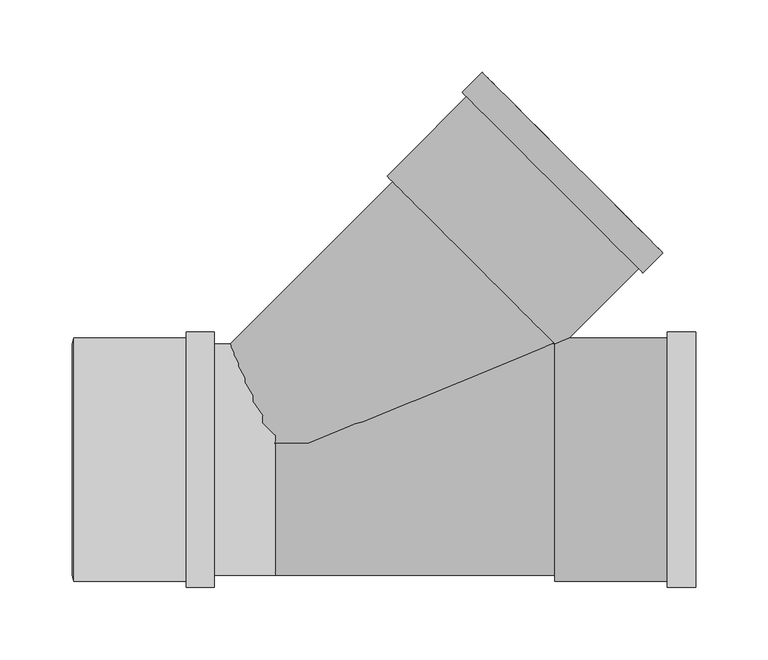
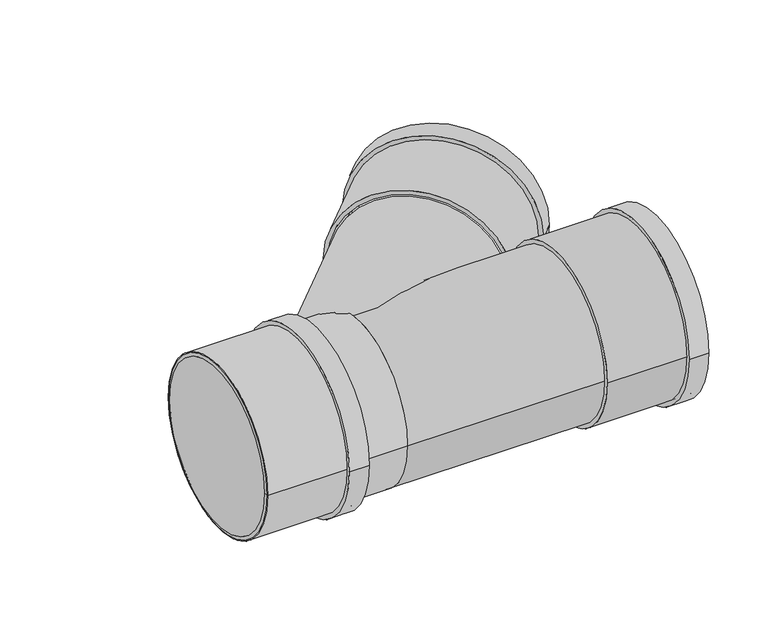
"""IFC4 building model written with IfcOpenShell, lengths in millimetres: pipe fitting geometry, Superdrain SKEA Branch : Superdrain SKEA Branch."""

from ifc_helpers import new_model, si_unit, point, frame, origin, origin_2d, place, context, project, spatial, polyline, circle_curve, ellipse_curve, trimmed, segment, composite_curve, outline, extrude, source, transform, mapped, element, save
from ifc_brep_helpers import plane_surface, cylinder_surface, revolved_surface, advanced_brep


def pipe_fitting_d46e7f13(model_context):
    return source(origin(), model_context, "Body", "SolidModel", [
        extrude(outline(composite_curve([segment(trimmed(circle_curve(origin_2d(), 84.0), [point((84.0, 0.0))], [point((-84.0, 0.0))], False, "CARTESIAN"), True, "CONTINUOUS"), segment(trimmed(circle_curve(origin_2d(), 84.0), [point((-84.0, 0.0))], [point((84.0, 0.0))], False, "CARTESIAN"), True, "CONTINUOUS")], self_intersect=False), holes=[composite_curve([segment(trimmed(circle_curve(origin_2d(), 80.0), [point((80.0, 0.0))], [point((-80.0, 0.0))], True, "CARTESIAN"), True, "CONTINUOUS"), segment(trimmed(circle_curve(origin_2d(), 80.0), [point((-80.0, 0.0))], [point((80.0, 0.0))], True, "CARTESIAN"), True, "CONTINUOUS")], self_intersect=False)]), frame((-139.0, 0.0, 0.0), z_axis=(1.0, 0.0, 0.0), x_axis=(0.0, 1.0, 0.0)), (0.0, 0.0, 1.0), 97.0),
        extrude(outline(composite_curve([segment(trimmed(circle_curve(origin_2d(), 88.2), [point((88.2, 0.0))], [point((-88.2, 0.0))], False, "CARTESIAN"), True, "CONTINUOUS"), segment(trimmed(circle_curve(origin_2d(), 88.2), [point((-88.2, 0.0))], [point((88.2, 0.0))], False, "CARTESIAN"), True, "CONTINUOUS")], self_intersect=False), holes=[composite_curve([segment(trimmed(circle_curve(origin_2d(), 80.0), [point((80.0, 0.0))], [point((-80.0, 0.0))], True, "CARTESIAN"), True, "CONTINUOUS"), segment(trimmed(circle_curve(origin_2d(), 80.0), [point((-80.0, 0.0))], [point((80.0, 0.0))], True, "CARTESIAN"), True, "CONTINUOUS")], self_intersect=False)]), frame((-61.4, 0.0, 0.0), z_axis=(1.0, 0.0, 0.0), x_axis=(0.0, 1.0, 0.0)), (0.0, 0.0, 1.0), 19.4),
        advanced_brep(
        [(-140.0, 80.0, 0.0), (-140.0, -80.0, 0.0), (-139.0, 84.0, 0.0), (-139.0, -84.0, 0.0)],
        [
            (0, 1, circle_curve(frame((-140.0, 0.0, 0.0), z_axis=(-1.0, 0.0, 0.0), x_axis=(0.0, 1.0000000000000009, 0.0)), 80.0)),
            (1, 0, circle_curve(frame((-140.0, 0.0, 0.0), z_axis=(-1.0, 0.0, 0.0), x_axis=(0.0, -1.0000000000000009, 0.0)), 80.0)),
            (2, 3, circle_curve(frame((-139.0, 0.0, 0.0), z_axis=(1.0, 0.0, 0.0), x_axis=(0.0, -1.0000000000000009, 0.0)), 84.0)),
            (3, 2, circle_curve(frame((-139.0, 0.0, 0.0), z_axis=(1.0, 0.0, 0.0), x_axis=(0.0, 1.0000000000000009, 0.0)), 84.0)),
            (3, 1),
            (0, 2),
        ],
        [
            plane_surface(frame((-140.0, 0.0, 0.0), z_axis=(-1.0, 0.0, 0.0), x_axis=(0.0, 0.0, -1.0))),
            plane_surface(frame((-139.0, 0.0, 0.0), z_axis=(1.0, 0.0, 0.0), x_axis=(0.0, 0.0, -1.0))),
            revolved_surface(polyline([(-140.0, 79.99999999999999, 0.0), (-139.0, 84.0, 0.0)]), (-160.0, 0.0, 0.0), (1.0000000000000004, 0.0, 0.0)),
            revolved_surface(polyline([(-140.0, -79.99999999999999, 0.0), (-139.0, -84.0, 0.0)]), (-160.0, 0.0, 0.0), (1.0000000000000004, 0.0, 0.0)),
        ],
        [
            (0, [[1, 2]]),
            (1, [[3, 4]]),
            (2, [[-4, 5, -1, 6]]),
            (3, [[-3, -6, -2, -5]]),
        ],
    ),
        advanced_brep(
        [(191.9087804, 81.0344371, 0.0), (81.0344371, 191.9087804, 0.0), (-32.4743433, 78.4, 0.0), (0.0, 0.0, 78.4), (189.2743433, 78.4, 0.0), (0.0, 0.0, -78.4)],
        [
            (0, 1, circle_curve(frame((136.4716088, 136.4716088, 0.0), z_axis=(0.7071067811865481, 0.707106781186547, 0.0), x_axis=(-0.707106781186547, 0.7071067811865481, 0.0)), 78.4)),
            (1, 0, circle_curve(frame((136.4716088, 136.4716088, 0.0), z_axis=(0.7071067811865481, 0.707106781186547, 0.0), x_axis=(-0.707106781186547, 0.7071067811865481, 0.0)), 78.4)),
            (1, 2),
            (2, 3, ellipse_curve(frame((0.0, 0.0, 0.0), z_axis=(0.923879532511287, 0.38268343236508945, 0.0), x_axis=(0.38268343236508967, -0.923879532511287, 0.0)), 84.8595485, 78.4)),
            (3, 4, ellipse_curve(frame((0.0, 0.0, 0.0), z_axis=(-0.3826834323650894, 0.9238795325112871, 0.0), x_axis=(-0.9238795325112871, -0.38268343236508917, 0.0)), 204.8690729, 78.4)),
            (4, 0),
            (4, 5, ellipse_curve(frame((0.0, 0.0, 0.0), z_axis=(-0.3826834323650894, 0.9238795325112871, 0.0), x_axis=(-0.9238795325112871, -0.38268343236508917, 0.0)), 204.8690729, 78.4)),
            (5, 2, ellipse_curve(frame((0.0, 0.0, 0.0), z_axis=(0.923879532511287, 0.38268343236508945, 0.0), x_axis=(0.38268343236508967, -0.923879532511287, 0.0)), 84.8595485, 78.4)),
            (2, 4),
        ],
        [
            plane_surface(frame((136.4716088, 136.4716088, 0.0), z_axis=(0.7071067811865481, 0.707106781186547, 0.0), x_axis=(0.0, 0.0, 1.0))),
            cylinder_surface(frame((0.0, 0.0, 0.0), z_axis=(-0.7071067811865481, -0.707106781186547, 0.0), x_axis=(-0.707106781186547, 0.7071067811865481, 0.0)), 78.4),
            revolved_surface(polyline([(-189.2743432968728, 78.4, 0.0), (189.2743433, 78.4, 0.0)]), (-144.0, 0.0, 0.0), (-1.0, 0.0, 0.0)),
        ],
        [
            (0, [[1, 2]]),
            (1, [[-2, 3, 4, 5, 6]]),
            (1, [[-1, -6, 7, 8, -3]]),
            (2, [[9, -5, -4]]),
            (2, [[-9, -8, -7]]),
        ],
    ),
        advanced_brep(
        [(193.0, -84.0, 0.0), (193.0, 84.0, 0.0), (290.0, -84.0, 0.0), (290.0, 84.0, 0.0), (290.0, -80.0, 0.0), (290.0, 80.0, 0.0), (194.0, -80.0, 0.0), (194.0, 80.0, 0.0)],
        [
            (0, 1, circle_curve(frame((193.0, 0.0, 0.0), z_axis=(-1.0, 0.0, 0.0), x_axis=(0.0, 1.0, 0.0)), 84.0)),
            (1, 0, circle_curve(frame((193.0, 0.0, 0.0), z_axis=(-1.0, 0.0, 0.0), x_axis=(0.0, 1.0, 0.0)), 84.0)),
            (2, 3, circle_curve(frame((290.0, 0.0, 0.0), z_axis=(1.0, 0.0, 0.0), x_axis=(0.0, 1.0, 0.0)), 84.0)),
            (3, 2, circle_curve(frame((290.0, 0.0, 0.0), z_axis=(1.0, 0.0, 0.0), x_axis=(0.0, 1.0, 0.0)), 84.0)),
            (4, 5, circle_curve(frame((290.0, 0.0, 0.0), z_axis=(-1.0, 0.0, 0.0), x_axis=(0.0, 1.0, 0.0)), 80.0)),
            (5, 4, circle_curve(frame((290.0, 0.0, 0.0), z_axis=(-1.0, 0.0, 0.0), x_axis=(0.0, 1.0, 0.0)), 80.0)),
            (0, 2),
            (3, 1),
            (6, 7, circle_curve(frame((194.0, 0.0, 0.0), z_axis=(-1.0, 0.0, 0.0), x_axis=(0.0, 1.0, 0.0)), 80.0)),
            (7, 5),
            (4, 6),
            (7, 6, circle_curve(frame((194.0, 0.0, 0.0), z_axis=(-1.0, 0.0, 0.0), x_axis=(0.0, 1.0, 0.0)), 80.0)),
        ],
        [
            plane_surface(frame((193.0, 0.0, 0.0), z_axis=(-1.0, 0.0, 0.0), x_axis=(0.0, 0.0, 1.0))),
            plane_surface(frame((290.0, 0.0, 0.0), z_axis=(1.0, 0.0, 0.0), x_axis=(0.0, 0.0, 1.0))),
            cylinder_surface(frame((193.0, 0.0, 0.0), z_axis=(-1.0, 0.0, 0.0), x_axis=(0.0, 1.0, 0.0)), 84.0),
            revolved_surface(polyline([(194.0, 80.0, 0.0), (290.0, 80.0, 0.0)]), (194.0, 0.0, 0.0), (-1.0, 0.0, 0.0)),
            plane_surface(frame((194.0, 0.0, 0.0), z_axis=(1.0, 0.0, 0.0), x_axis=(0.0, 0.0, 1.0))),
        ],
        [
            (0, [[1, 2]]),
            (1, [[3, 4], [5, 6]]),
            (2, [[-1, 7, -4, 8]]),
            (2, [[-2, -8, -3, -7]]),
            (3, [[9, 10, -5, 11]]),
            (3, [[12, -11, -6, -10]]),
            (4, [[-12, -9]]),
        ],
    ),
        extrude(outline(composite_curve([segment(trimmed(circle_curve(origin_2d(), 88.2), [point((88.2, 0.0))], [point((-88.2, 0.0))], False, "CARTESIAN"), True, "CONTINUOUS"), segment(trimmed(circle_curve(origin_2d(), 88.2), [point((-88.2, 0.0))], [point((88.2, 0.0))], False, "CARTESIAN"), True, "CONTINUOUS")], self_intersect=False), holes=[composite_curve([segment(trimmed(circle_curve(origin_2d(), 80.0), [point((80.0, 0.0))], [point((-80.0, 0.0))], True, "CARTESIAN"), True, "CONTINUOUS"), segment(trimmed(circle_curve(origin_2d(), 80.0), [point((-80.0, 0.0))], [point((80.0, 0.0))], True, "CARTESIAN"), True, "CONTINUOUS")], self_intersect=False)]), frame((270.6, 0.0, 0.0), z_axis=(1.0, 0.0, 0.0), x_axis=(0.0, 1.0, 0.0)), (0.0, 0.0, 1.0), 19.4),
        extrude(outline(composite_curve([segment(trimmed(circle_curve(origin_2d(), 80.0), [point((80.0, 0.0))], [point((-80.0, 0.0))], False, "CARTESIAN"), True, "CONTINUOUS"), segment(trimmed(circle_curve(origin_2d(), 80.0), [point((-80.0, 0.0))], [point((80.0, 0.0))], False, "CARTESIAN"), True, "CONTINUOUS")], self_intersect=False)), frame((-139.0, 0.0, 0.0), z_axis=(1.0, 0.0, 0.0), x_axis=(0.0, 1.0, 0.0)), (0.0, 0.0, 1.0), 139.0),
        extrude(outline(composite_curve([segment(trimmed(circle_curve(origin_2d(), 80.0), [point((-80.0, 0.0))], [point((80.0, 0.0))], False, "CARTESIAN"), True, "CONTINUOUS"), segment(trimmed(circle_curve(origin_2d(), 80.0), [point((80.0, 0.0))], [point((-80.0, 0.0))], False, "CARTESIAN"), True, "CONTINUOUS")], self_intersect=False)), frame((0.0, 0.0, 0.0), z_axis=(1.0, 0.0, 0.0), x_axis=(0.0, 1.0, 0.0)), (0.0, 0.0, 1.0), 193.0),
        extrude(outline(composite_curve([segment(trimmed(circle_curve(origin_2d(), 88.2), [point((0.0, 88.2))], [point((0.0, -88.2))], False, "CARTESIAN"), True, "CONTINUOUS"), segment(trimmed(circle_curve(origin_2d(), 88.2), [point((0.0, -88.2))], [point((0.0, 88.2))], False, "CARTESIAN"), True, "CONTINUOUS")], self_intersect=False), holes=[composite_curve([segment(trimmed(circle_curve(origin_2d(), 80.0), [point((0.0, 80.0))], [point((0.0, -80.0))], True, "CARTESIAN"), True, "CONTINUOUS"), segment(trimmed(circle_curve(origin_2d(), 80.0), [point((0.0, -80.0))], [point((0.0, 80.0))], True, "CARTESIAN"), True, "CONTINUOUS")], self_intersect=False)]), frame((191.343095, 191.343095, 0.0), z_axis=(0.7071067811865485, 0.7071067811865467, 0.0), x_axis=(0.0, 0.0, 1.0)), (0.0, 0.0, 1.0), 19.4),
        extrude(outline(composite_curve([segment(trimmed(circle_curve(origin_2d(), 84.0), [point((0.0, 84.0))], [point((0.0, -84.0))], False, "CARTESIAN"), True, "CONTINUOUS"), segment(trimmed(circle_curve(origin_2d(), 84.0), [point((0.0, -84.0))], [point((0.0, 84.0))], False, "CARTESIAN"), True, "CONTINUOUS")], self_intersect=False), holes=[composite_curve([segment(trimmed(circle_curve(origin_2d(), 80.0), [point((0.0, 80.0))], [point((0.0, -80.0))], True, "CARTESIAN"), True, "CONTINUOUS"), segment(trimmed(circle_curve(origin_2d(), 80.0), [point((0.0, -80.0))], [point((0.0, 80.0))], True, "CARTESIAN"), True, "CONTINUOUS")], self_intersect=False)]), frame((136.4716088, 136.4716088, 0.0), z_axis=(0.7071067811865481, 0.707106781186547, 0.0), x_axis=(0.0, 0.0, 1.0)), (0.0, 0.0, 1.0), 97.0),
    ])


if __name__ == "__main__":
    model = new_model("IFC4")
    model_context = context("Model", 3, world=origin())
    ifc_project = project(units=[si_unit("LENGTHUNIT", "METRE", prefix="MILLI")], contexts=[model_context])
    site = spatial("IfcSite", under=ifc_project)
    building = spatial("IfcBuilding", under=site)
    placement = place(None, origin())
    pipe_fitting_shape = pipe_fitting_d46e7f13(model_context)
    element("IfcPipeFitting", 1, ObjectType="Superdrain SKEA Branch : Superdrain SKEA Branch", at=placement, inside=building, context=model_context, shape_type="MappedRepresentation", body=[
        mapped(pipe_fitting_shape, transform((0.0, 0.0, 0.0), x_axis=(1.0, 0.0, 0.0), y_axis=(0.0, 1.0, 0.0), z_axis=(0.0, 0.0, 1.0))),
    ])
    save(model, "model.ifc")
